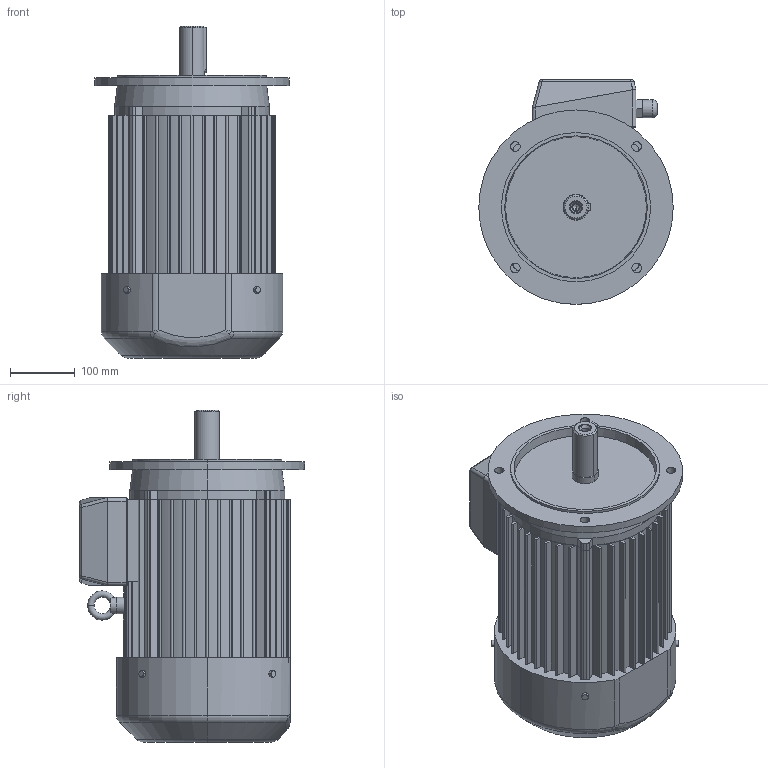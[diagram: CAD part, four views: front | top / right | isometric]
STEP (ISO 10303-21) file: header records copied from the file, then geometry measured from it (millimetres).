
FILE_DESCRIPTION (( 'STEP AP203' ), '1' );
FILE_NAME ('3SIEK132S;M.STEP', '2014-05-21T11:20:37', ( '' ), ( '' ), 'SwSTEP 2.0', 'SolidWorks 2003064', '' );
FILE_SCHEMA (( 'CONFIG_CONTROL_DESIGN' ));
Length unit declared in the file: millimetre
Products named in the file (1): 3SIEK132S;M
Bounding box: 300 x 347 x 512 mm (x, y, z)
Volume: 23303790.2 mm3; surface area: 977562.8 mm2
Topology: 14 solids, 14 shells, 390 faces, 1017 edges, 652 vertices
Faces by surface type: cylinder 180, plane 169, torus 16, cone 16, bspline 5, sphere 4
Entity records: 15749 total; most frequent: CARTESIAN_POINT 5901, DIRECTION 2128, ORIENTED_EDGE 2018, EDGE_CURVE 1009, AXIS2_PLACEMENT_3D 778, VERTEX_POINT 652, LINE 572, VECTOR 572
